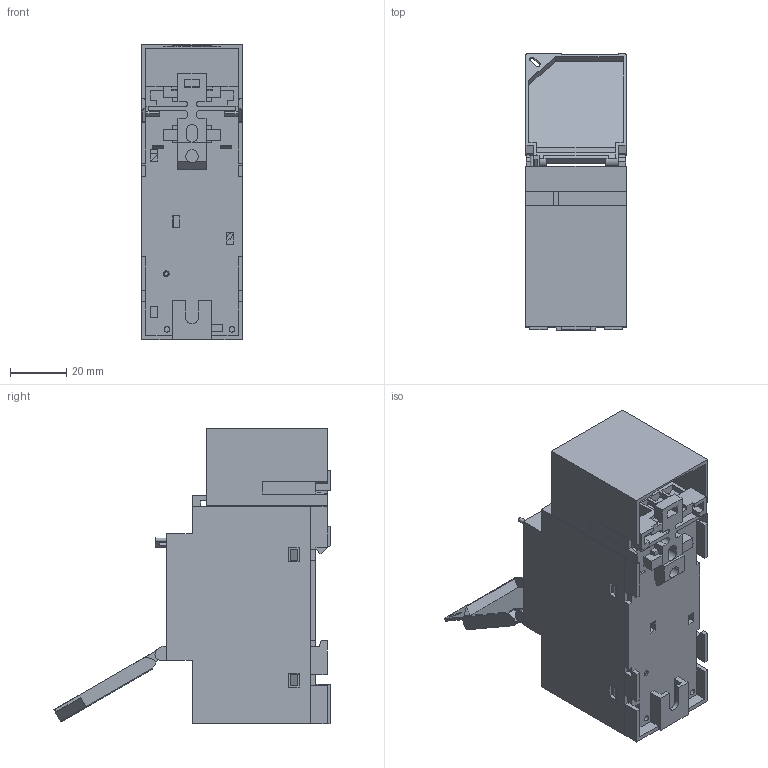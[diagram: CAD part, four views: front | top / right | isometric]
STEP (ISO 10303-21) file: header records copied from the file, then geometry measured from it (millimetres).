
FILE_DESCRIPTION(/* description */ ('Unknown'),/* implementation_level */ '2;1');
FILE_NAME(/* name */ '1001-199-001 VS2x montiert',/* time_stamp */ '2017-10-12T10:48:03+02:00',/* author */ ('Unknown'),/* organization */ ('Unknown'),/* preprocessor_version */ 'ST-DEVELOPER v16.7',/* originating_system */ 'DEX',/* authorisation */ $);
FILE_SCHEMA (('AUTOMOTIVE_DESIGN {1 0 10303 214 3 1 1}'));
Length unit declared in the file: millimetre
Products named in the file (1): 1001-199-001 VS2x montiert
Bounding box: 35.8 x 98.07 x 105 mm (x, y, z)
Surface area: 51220.3 mm2 (no closed solid volume)
Topology: 0 solids, 64 shells, 803 faces, 3580 edges, 2796 vertices
Faces by surface type: plane 621, cylinder 132, bspline 47, cone 2, torus 1
Full cylindrical faces by diameter (mm): 2 x3, 3.5 x1, 3.8 x1, 4.5 x1, 5.2 x1, 6.2 x1, 10 x1, 10.6 x1, 23 x1, 24.8 x1, 31.5 x1
Entity records: 36600 total; most frequent: CARTESIAN_POINT 8417, ORIENTED_EDGE 5305, DIRECTION 5145, EDGE_CURVE 3560, LINE 3005, VECTOR 3005, VERTEX_POINT 2791, AXIS2_PLACEMENT_3D 1070
